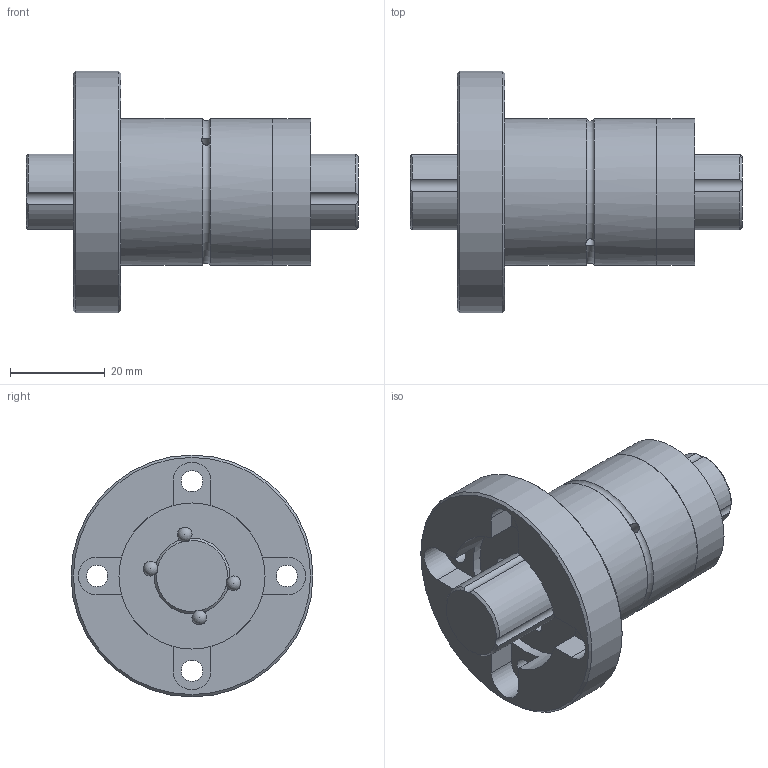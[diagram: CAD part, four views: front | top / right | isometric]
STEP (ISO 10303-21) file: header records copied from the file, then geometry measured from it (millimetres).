
FILE_DESCRIPTION(/* description */ ('Unknown'),/* implementation_level */ '2;1');
FILE_NAME(/* name */ 'TLF016-D-L70',/* time_stamp */ '2024-12-16T13:52:08+08:00',/* author */ ('Unknown'),/* organization */ ('Unknown'),/* preprocessor_version */ 'ST-DEVELOPER v18.102',/* originating_system */ 'Solid Edge',/* authorisation */ 'Unknown');
FILE_SCHEMA (('AUTOMOTIVE_DESIGN {1 0 10303 214 3 1 1}'));
Length unit declared in the file: millimetre
Products named in the file (3): TLF016-D-L70; TLF016-D-xxxx; TLF016
Assembly tree (2 placements, depth 2):
  TLF016-D-L70
    TLF016-D-xxxx
    TLF016
Bounding box: 70 x 51 x 51 mm (x, y, z)
Volume: 47187 mm3; surface area: 17820.9 mm2
Topology: 2 solids, 2 shells, 82 faces, 285 edges, 192 vertices
Faces by surface type: cylinder 31, sphere 20, plane 19, cone 10, torus 2
Full cylindrical faces by diameter (mm): 2 x2, 4.5 x4, 30.8 x2, 31 x2, 51 x1
Entity records: 3403 total; most frequent: CARTESIAN_POINT 1319, DIRECTION 404, ORIENTED_EDGE 374, EDGE_CURVE 187, AXIS2_PLACEMENT_3D 178, EDGE_LOOP 162, FACE_BOUND 162, VERTEX_POINT 143
